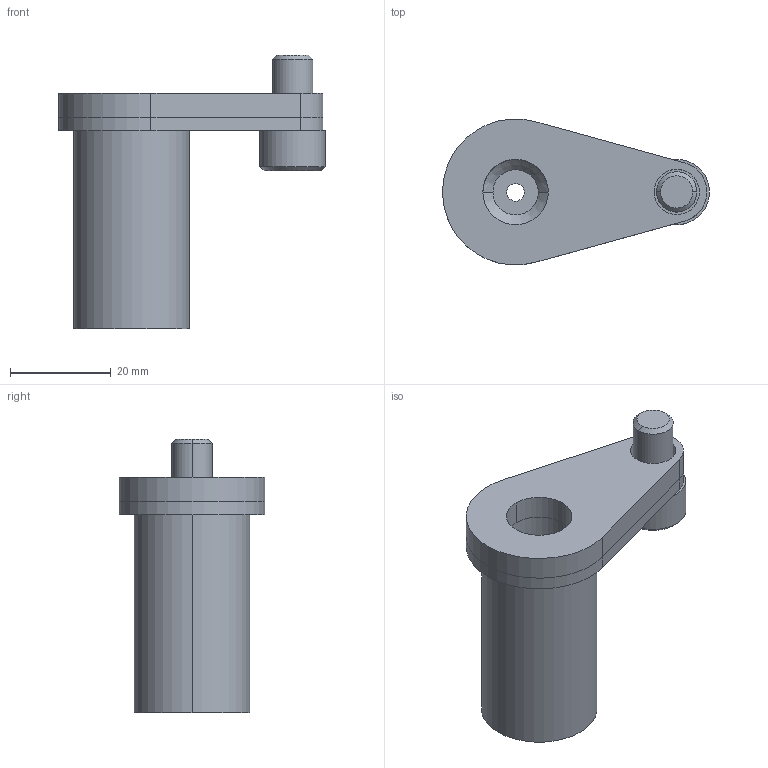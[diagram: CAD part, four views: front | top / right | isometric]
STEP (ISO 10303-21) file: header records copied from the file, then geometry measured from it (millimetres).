
FILE_DESCRIPTION(/* description */ (''),/* implementation_level */ '2;1');
FILE_NAME(/* name */ '3d_pqsp13-42_02944_r00.stp',/* time_stamp */ '2011-01-10T14:11:42+09:00',/* author */ ('MISUMI'),/* organization */ (''),/* preprocessor_version */ 'ST-DEVELOPER v11',/* originating_system */ 'UGS - NX 5.0',/* authorisation */ '');
FILE_SCHEMA (('CONFIG_CONTROL_DESIGN'));
Length unit declared in the file: millimetre
Products named in the file (1): 3d_pqsp13-42_02944_r00
Bounding box: 53 x 28.94 x 54.4 mm (x, y, z)
Volume: 20009.5 mm3; surface area: 10860.2 mm2
Topology: 4 solids, 4 shells, 51 faces, 120 edges, 80 vertices
Faces by surface type: plane 21, cylinder 20, cone 10
Entity records: 1594 total; most frequent: DIRECTION 284, CARTESIAN_POINT 252, ORIENTED_EDGE 240, EDGE_CURVE 120, AXIS2_PLACEMENT_3D 112, VERTEX_POINT 80, EDGE_LOOP 64, LINE 60
